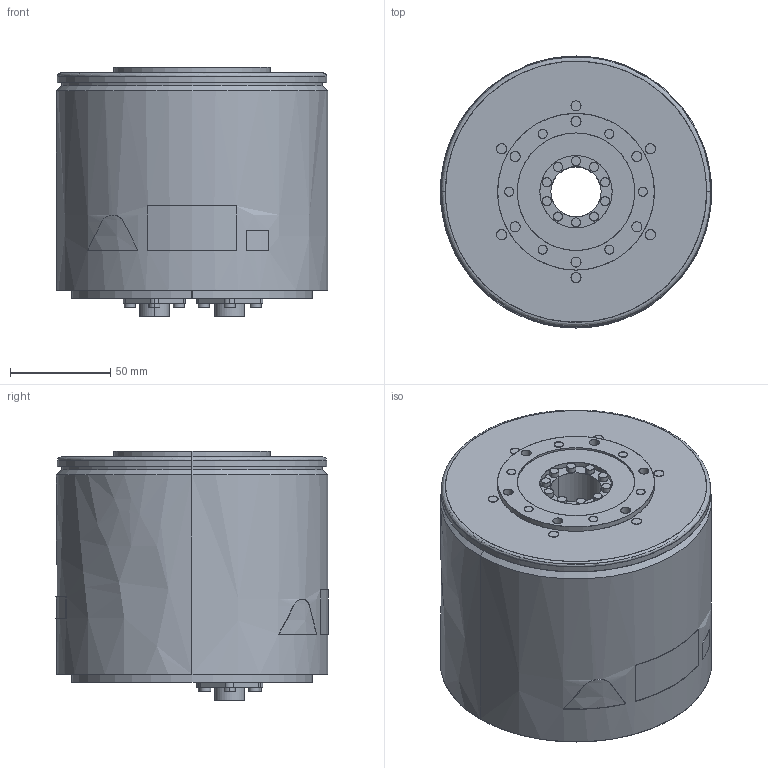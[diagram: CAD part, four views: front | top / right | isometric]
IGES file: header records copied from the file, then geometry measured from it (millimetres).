
Start section: SolidWorks IGES file using analytic representation for surfaces
Global section: file name: D:\YASKAWA\sgm7f_14b_a1_.IGS; native system: SolidWorks 2006 by SolidWorks Corporation; preprocessor: SolidWorks 2006 by SolidWorks Corporation; author: yamanouchi; date: 160724.152700; units: millimetre
Bounding box: 135 x 135.4 x 124.1 mm (x, y, z)
Surface area: 105820 mm2 (no closed solid volume)
Topology: 0 solids, 0 shells, 326 faces, 6639 edges, 6639 vertices
Faces by surface type: revolution 186, bspline 140
